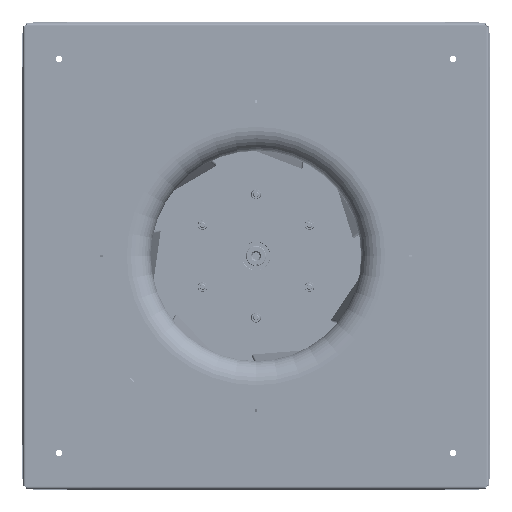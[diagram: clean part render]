
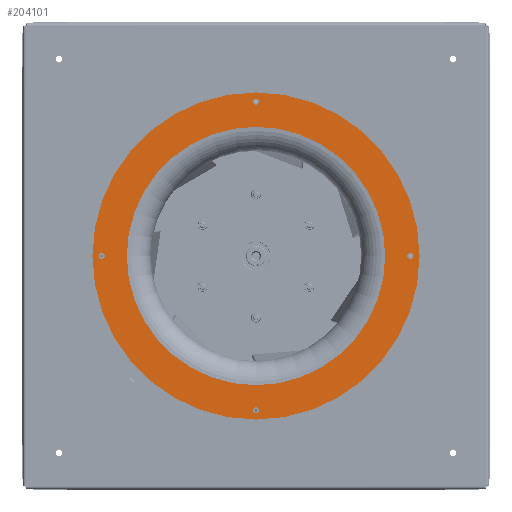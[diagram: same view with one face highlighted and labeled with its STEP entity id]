
A CAD part, front view. The second image highlights one B-rep face of the part: STEP entity #204101.
In plain terms, the highlighted planar face has unit normal (0, -1, 0) as drawn and (0, 0, 1) by its records, which use the part's own axes.
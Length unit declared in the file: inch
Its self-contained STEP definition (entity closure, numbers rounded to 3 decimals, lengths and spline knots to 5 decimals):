
#7729 = CIRCLE ( 'NONE', #188450, 0.16732 ) ;
#8071 = DIRECTION ( 'NONE',  ( -1., 0., 0. ) ) ;
#9372 = VERTEX_POINT ( 'NONE', #270552 ) ;
#13002 = DIRECTION ( 'NONE',  ( 1., 0., 0. ) ) ;
#17254 = ORIENTED_EDGE ( 'NONE', *, *, #99573, .F. ) ;
#18960 = DIRECTION ( 'NONE',  ( -1., 0., 0. ) ) ;
#23275 = CIRCLE ( 'NONE', #42189, 0.16732 ) ;
#25481 = DIRECTION ( 'NONE',  ( 1., 0., 0. ) ) ;
#28375 = ORIENTED_EDGE ( 'NONE', *, *, #152283, .F. ) ;
#28951 = AXIS2_PLACEMENT_3D ( 'NONE', #197757, #224447, #87563 ) ;
#30367 = ORIENTED_EDGE ( 'NONE', *, *, #86593, .F. ) ;
#30501 = DIRECTION ( 'NONE',  ( 1., 0., 0. ) ) ;
#30786 = CIRCLE ( 'NONE', #197075, 0.16732 ) ;
#31813 = DIRECTION ( 'NONE',  ( 1., 0., 0. ) ) ;
#34662 = DIRECTION ( 'NONE',  ( 0., 0., 1. ) ) ;
#42189 = AXIS2_PLACEMENT_3D ( 'NONE', #94485, #51383, #30501 ) ;
#42814 = CARTESIAN_POINT ( 'NONE',  ( 8.62205, -0.16732, 0. ) ) ;
#44858 = CARTESIAN_POINT ( 'NONE',  ( -8.62205, -0.16732, 0. ) ) ;
#45687 = CARTESIAN_POINT ( 'NONE',  ( 0., -8.62205, 0. ) ) ;
#48807 = FACE_BOUND ( 'NONE', #262493, .T. ) ;
#50112 = VERTEX_POINT ( 'NONE', #163405 ) ;
#51383 = DIRECTION ( 'NONE',  ( 0., 0., 1. ) ) ;
#58713 = DIRECTION ( 'NONE',  ( 0., 0., -1. ) ) ;
#61183 = ORIENTED_EDGE ( 'NONE', *, *, #289413, .F. ) ;
#71354 = CIRCLE ( 'NONE', #142775, 0.16732 ) ;
#75517 = CARTESIAN_POINT ( 'NONE',  ( 0.16732, 8.62205, 0. ) ) ;
#77954 = CARTESIAN_POINT ( 'NONE',  ( 0., -8.62205, 0. ) ) ;
#78170 = DIRECTION ( 'NONE',  ( 0., 0., 1. ) ) ;
#81672 = AXIS2_PLACEMENT_3D ( 'NONE', #188332, #78170, #142220 ) ;
#86593 = EDGE_CURVE ( 'NONE', #235578, #264328, #71354, .T. ) ;
#86766 = AXIS2_PLACEMENT_3D ( 'NONE', #145575, #211086, #97968 ) ;
#87563 = DIRECTION ( 'NONE',  ( 1., 0., 0. ) ) ;
#90256 = VERTEX_POINT ( 'NONE', #90703 ) ;
#90703 = CARTESIAN_POINT ( 'NONE',  ( 8.62205, 0.16732, 0. ) ) ;
#93828 = EDGE_CURVE ( 'NONE', #99364, #204903, #143177, .T. ) ;
#94485 = CARTESIAN_POINT ( 'NONE',  ( 0., 8.62205, 0. ) ) ;
#95979 = AXIS2_PLACEMENT_3D ( 'NONE', #134561, #268527, #31813 ) ;
#96774 = AXIS2_PLACEMENT_3D ( 'NONE', #147737, #34662, #216178 ) ;
#97968 = DIRECTION ( 'NONE',  ( 0., -1., 0. ) ) ;
#98763 = CARTESIAN_POINT ( 'NONE',  ( -8.62205, 0.16732, 0. ) ) ;
#99364 = VERTEX_POINT ( 'NONE', #171629 ) ;
#99573 = EDGE_CURVE ( 'NONE', #150852, #90256, #253610, .T. ) ;
#102032 = EDGE_CURVE ( 'NONE', #126576, #50112, #30786, .T. ) ;
#105872 = CIRCLE ( 'NONE', #291314, 9.13386 ) ;
#111150 = DIRECTION ( 'NONE',  ( 0., 0., 1. ) ) ;
#112790 = FACE_BOUND ( 'NONE', #181344, .T. ) ;
#114243 = PLANE ( 'NONE',  #121233 ) ;
#114723 = DIRECTION ( 'NONE',  ( 0., 0., 1. ) ) ;
#115662 = ORIENTED_EDGE ( 'NONE', *, *, #288141, .T. ) ;
#120630 = CARTESIAN_POINT ( 'NONE',  ( -0.16732, -8.62205, 0. ) ) ;
#121233 = AXIS2_PLACEMENT_3D ( 'NONE', #182730, #58713, #198475 ) ;
#123838 = ORIENTED_EDGE ( 'NONE', *, *, #102032, .F. ) ;
#123948 = CARTESIAN_POINT ( 'NONE',  ( 7.21457, 0., 0. ) ) ;
#126576 = VERTEX_POINT ( 'NONE', #75517 ) ;
#128307 = VERTEX_POINT ( 'NONE', #165792 ) ;
#132262 = EDGE_CURVE ( 'NONE', #248623, #128307, #214356, .T. ) ;
#134561 = CARTESIAN_POINT ( 'NONE',  ( 0., 0., 0. ) ) ;
#136598 = FACE_OUTER_BOUND ( 'NONE', #176064, .T. ) ;
#139573 = FACE_BOUND ( 'NONE', #226571, .T. ) ;
#142220 = DIRECTION ( 'NONE',  ( 0., 1., 0. ) ) ;
#142775 = AXIS2_PLACEMENT_3D ( 'NONE', #218629, #145816, #238044 ) ;
#143177 = CIRCLE ( 'NONE', #95979, 9.13386 ) ;
#145575 = CARTESIAN_POINT ( 'NONE',  ( 8.62205, 0., 0. ) ) ;
#145816 = DIRECTION ( 'NONE',  ( 0., 0., 1. ) ) ;
#147737 = CARTESIAN_POINT ( 'NONE',  ( 0., 0., 0. ) ) ;
#148754 = CARTESIAN_POINT ( 'NONE',  ( 9.13386, 0., 0. ) ) ;
#150852 = VERTEX_POINT ( 'NONE', #42814 ) ;
#152283 = EDGE_CURVE ( 'NONE', #50112, #126576, #23275, .T. ) ;
#155517 = ORIENTED_EDGE ( 'NONE', *, *, #158721, .F. ) ;
#158721 = EDGE_CURVE ( 'NONE', #264328, #235578, #181278, .T. ) ;
#159396 = CARTESIAN_POINT ( 'NONE',  ( 0., 8.62205, 0. ) ) ;
#163067 = EDGE_CURVE ( 'NONE', #171042, #9372, #233778, .T. ) ;
#163405 = CARTESIAN_POINT ( 'NONE',  ( -0.16732, 8.62205, 0. ) ) ;
#165792 = CARTESIAN_POINT ( 'NONE',  ( -7.21457, 0., 0. ) ) ;
#168084 = EDGE_LOOP ( 'NONE', ( #184467, #228524 ) ) ;
#171042 = VERTEX_POINT ( 'NONE', #120630 ) ;
#171629 = CARTESIAN_POINT ( 'NONE',  ( -9.13386, 0., 0. ) ) ;
#173621 = DIRECTION ( 'NONE',  ( 0., 0., 1. ) ) ;
#176064 = EDGE_LOOP ( 'NONE', ( #115662, #292065 ) ) ;
#181278 = CIRCLE ( 'NONE', #81672, 0.16732 ) ;
#181297 = EDGE_LOOP ( 'NONE', ( #17254, #242835 ) ) ;
#181344 = EDGE_LOOP ( 'NONE', ( #155517, #30367 ) ) ;
#182730 = CARTESIAN_POINT ( 'NONE',  ( 0., 9.13386, 0. ) ) ;
#184467 = ORIENTED_EDGE ( 'NONE', *, *, #163067, .F. ) ;
#188332 = CARTESIAN_POINT ( 'NONE',  ( -8.62205, 0., 0. ) ) ;
#188450 = AXIS2_PLACEMENT_3D ( 'NONE', #45687, #111150, #18960 ) ;
#197075 = AXIS2_PLACEMENT_3D ( 'NONE', #159396, #114723, #25481 ) ;
#197757 = CARTESIAN_POINT ( 'NONE',  ( 0., 0., 0. ) ) ;
#198475 = DIRECTION ( 'NONE',  ( 0., -1., 0. ) ) ;
#203580 = FACE_BOUND ( 'NONE', #168084, .T. ) ;
#204101 = ADVANCED_FACE ( 'NONE', ( #48807, #139573, #112790, #203580, #249724, #136598 ), #114243, .F. ) ;
#204903 = VERTEX_POINT ( 'NONE', #148754 ) ;
#205259 = AXIS2_PLACEMENT_3D ( 'NONE', #77954, #252114, #8071 ) ;
#211086 = DIRECTION ( 'NONE',  ( 0., 0., 1. ) ) ;
#214356 = CIRCLE ( 'NONE', #28951, 7.21457 ) ;
#215577 = DIRECTION ( 'NONE',  ( 0., -1., 0. ) ) ;
#216178 = DIRECTION ( 'NONE',  ( 1., 0., 0. ) ) ;
#216839 = CARTESIAN_POINT ( 'NONE',  ( 0., 0., 0. ) ) ;
#218629 = CARTESIAN_POINT ( 'NONE',  ( -8.62205, 0., 0. ) ) ;
#222834 = ORIENTED_EDGE ( 'NONE', *, *, #132262, .F. ) ;
#224447 = DIRECTION ( 'NONE',  ( 0., 0., 1. ) ) ;
#226571 = EDGE_LOOP ( 'NONE', ( #123838, #28375 ) ) ;
#228524 = ORIENTED_EDGE ( 'NONE', *, *, #254961, .F. ) ;
#233778 = CIRCLE ( 'NONE', #205259, 0.16732 ) ;
#235578 = VERTEX_POINT ( 'NONE', #44858 ) ;
#237919 = DIRECTION ( 'NONE',  ( 0., 0., 1. ) ) ;
#238044 = DIRECTION ( 'NONE',  ( 0., 1., 0. ) ) ;
#242835 = ORIENTED_EDGE ( 'NONE', *, *, #283512, .F. ) ;
#248623 = VERTEX_POINT ( 'NONE', #123948 ) ;
#248907 = AXIS2_PLACEMENT_3D ( 'NONE', #263165, #237919, #215577 ) ;
#249724 = FACE_BOUND ( 'NONE', #181297, .T. ) ;
#252114 = DIRECTION ( 'NONE',  ( 0., 0., 1. ) ) ;
#253156 = CIRCLE ( 'NONE', #86766, 0.16732 ) ;
#253610 = CIRCLE ( 'NONE', #248907, 0.16732 ) ;
#254961 = EDGE_CURVE ( 'NONE', #9372, #171042, #7729, .T. ) ;
#262493 = EDGE_LOOP ( 'NONE', ( #222834, #61183 ) ) ;
#263165 = CARTESIAN_POINT ( 'NONE',  ( 8.62205, 0., 0. ) ) ;
#264328 = VERTEX_POINT ( 'NONE', #98763 ) ;
#268527 = DIRECTION ( 'NONE',  ( 0., 0., 1. ) ) ;
#270552 = CARTESIAN_POINT ( 'NONE',  ( 0.16732, -8.62205, 0. ) ) ;
#283512 = EDGE_CURVE ( 'NONE', #90256, #150852, #253156, .T. ) ;
#286681 = CIRCLE ( 'NONE', #96774, 7.21457 ) ;
#288141 = EDGE_CURVE ( 'NONE', #204903, #99364, #105872, .T. ) ;
#289413 = EDGE_CURVE ( 'NONE', #128307, #248623, #286681, .T. ) ;
#291314 = AXIS2_PLACEMENT_3D ( 'NONE', #216839, #173621, #13002 ) ;
#292065 = ORIENTED_EDGE ( 'NONE', *, *, #93828, .T. ) ;
